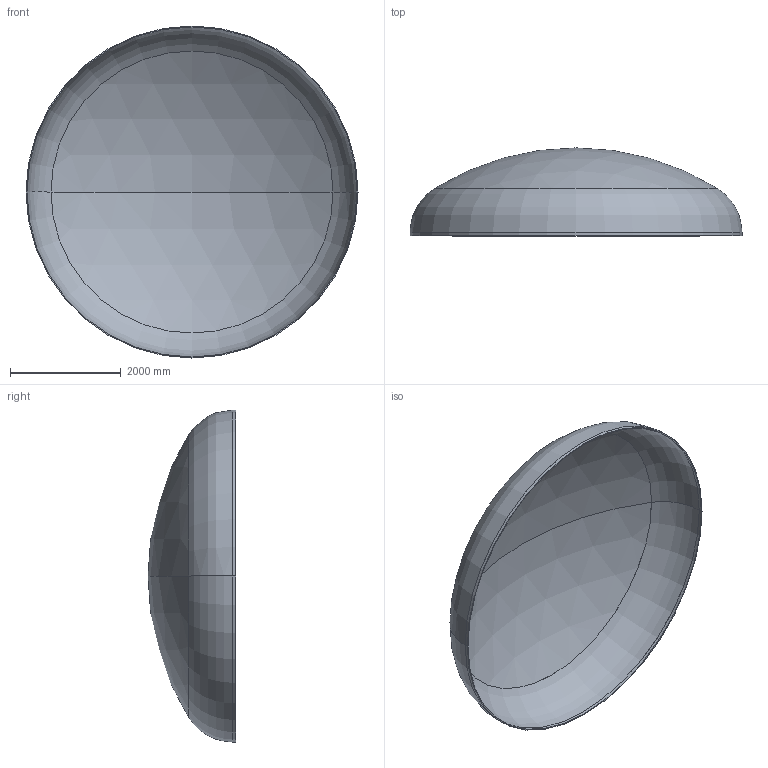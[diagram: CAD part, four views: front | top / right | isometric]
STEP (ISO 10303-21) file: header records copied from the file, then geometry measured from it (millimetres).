
FILE_DESCRIPTION (( 'STEP AP203' ), '1' );
FILE_NAME ('DIN 28013 Korbbogenform_-_Boden DIN 28013 - 6000 x 55 - I - s=17.step', '2016-07-04T10:35:56', ( '' ), ( '' ), 'SwSTEP 2.0', 'SolidWorks 2013', '' );
FILE_SCHEMA (( 'CONFIG_CONTROL_DESIGN' ));
Length unit declared in the file: millimetre
Products named in the file (1): DIN 28013 Korbbogenform_-_Boden DIN 28013 - 6000 x 55 - I - s=17
Bounding box: 6000 x 1588.67 x 6000 mm (x, y, z)
Volume: 680985830.3 mm3; surface area: 80436087.2 mm2
Topology: 1 solids, 1 shells, 13 faces, 24 edges, 14 vertices
Faces by surface type: torus 4, cylinder 4, sphere 4, plane 1
Entity records: 407 total; most frequent: DIRECTION 72, CARTESIAN_POINT 52, ORIENTED_EDGE 48, AXIS2_PLACEMENT_3D 34, EDGE_CURVE 24, CIRCLE 20, VERTEX_POINT 14, EDGE_LOOP 14
